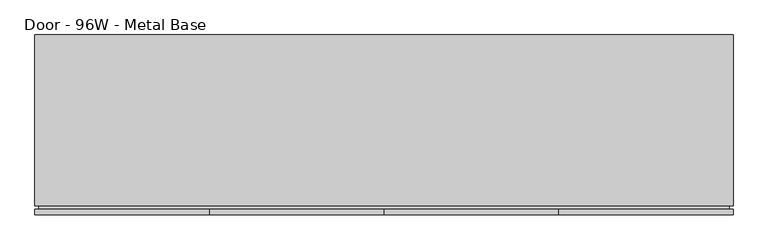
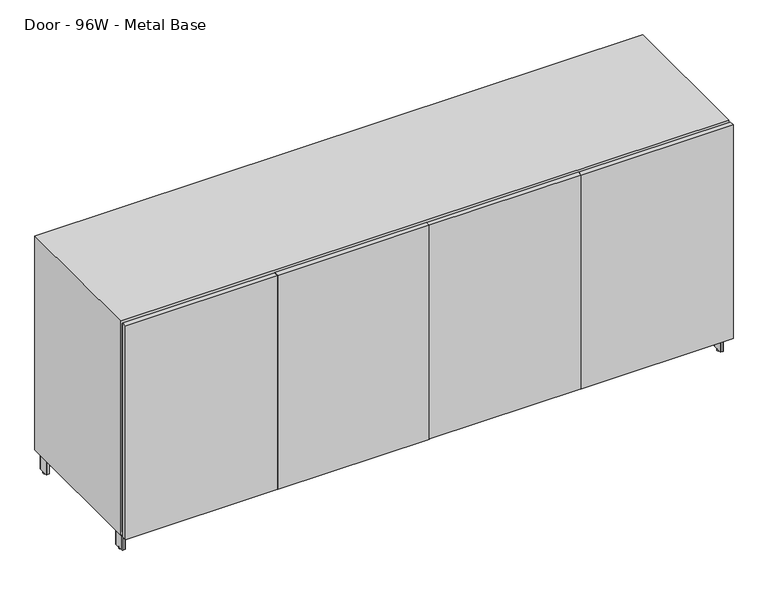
"""IFC4 building model written with IfcOpenShell, lengths in millimetres: furniture geometry, Steelcase Coalesse - Exponents - Storage - Credenza - 39H : Door - 96W - Metal Base."""

import ifcopenshell
import ifcopenshell.guid

model = None  # the IFC model being written
_history = None  # IfcOwnerHistory: only IFC2X3 demands one
_inside = {}  # id of a spatial element -> (the spatial element, [elements in it])
_under = {}  # id of a project, library or spatial element -> (it, [spatial elements below it])
_declared = {}  # id of a project -> (the project, [libraries it declares])
_typed = {}  # id of a type object -> (the type object, [elements of that type])
_made_of = {}  # id of a material, layer set ... -> (it, [elements and type objects made of it])


def new_model(schema):
    """Start an empty IFC model of exactly this schema.

    Asked for "IFC4X3", IfcOpenShell would pick the latest addendum, in which some entities
    have other attributes; the version numbers below select the first issue.
    IFC2X3 requires an IfcOwnerHistory on every rooted entity: one is made here for all.
    """
    global model, _history
    if schema == "IFC4X3":
        model = ifcopenshell.file(schema_version=(4, 3, 0, 0))
    else:
        model = ifcopenshell.file(schema=schema)
    _inside.clear()
    _under.clear()
    _declared.clear()
    _typed.clear()
    _made_of.clear()
    _history = None
    if model.schema == "IFC2X3":
        org = make("IfcOrganization", Name="unknown")
        user = make(
            "IfcPersonAndOrganization",
            ThePerson=make("IfcPerson", FamilyName="unknown"),
            TheOrganization=org,
        )
        app = make(
            "IfcApplication",
            ApplicationDeveloper=org,
            Version="unknown",
            ApplicationFullName="unknown",
            ApplicationIdentifier="unknown",
        )
        _history = make(
            "IfcOwnerHistory",
            OwningUser=user,
            OwningApplication=app,
            ChangeAction="ADDED",
            CreationDate=0,
        )
    return model


def make(cls, **values):
    """One entity of the class cls with the attributes given. An attribute that is None is left unset."""
    return model.create_entity(
        cls, **{name: value for name, value in values.items() if value is not None}
    )


def rooted(cls, **values):
    """An entity with a GlobalId (a new one), such as an element, a storey or a relation."""
    return make(cls, GlobalId=ifcopenshell.guid.new(), OwnerHistory=_history, **values)


def si_unit(unit_type, name, prefix=None):
    """IfcSIUnit, for example si_unit("LENGTHUNIT", "METRE", prefix="MILLI")."""
    return make("IfcSIUnit", UnitType=unit_type, Prefix=prefix, Name=name)


def assignment(units):
    """IfcUnitAssignment: the units of a project."""
    return None if units is None else make("IfcUnitAssignment", Units=units)


def point(xyz):
    """IfcCartesianPoint."""
    return None if xyz is None else make("IfcCartesianPoint", Coordinates=xyz)


def direction(xyz):
    """IfcDirection."""
    return None if xyz is None else make("IfcDirection", DirectionRatios=xyz)


def frame(location, z_axis=None, x_axis=None):
    """IfcAxis2Placement3D, a coordinate frame: its origin and axes. An axis left out is left unset."""
    return make(
        "IfcAxis2Placement3D",
        Location=point(location),
        Axis=direction(z_axis),
        RefDirection=direction(x_axis),
    )


def frame_2d(location, x_axis=None):
    """IfcAxis2Placement2D, a coordinate frame in the plane: its origin and x axis."""
    return make(
        "IfcAxis2Placement2D", Location=point(location), RefDirection=direction(x_axis)
    )


def origin():
    """The frame at (0, 0, 0) with its axes left unset."""
    return frame((0.0, 0.0, 0.0))


def origin_with_axes():
    """The frame at (0, 0, 0) with the z axis (0, 0, 1) and the x axis (1, 0, 0) written out."""
    return frame((0.0, 0.0, 0.0), z_axis=(0.0, 0.0, 1.0), x_axis=(1.0, 0.0, 0.0))


def place(relative_to, where):
    """IfcLocalPlacement: puts the frame where relative to a parent placement (None: the world)."""
    return make(
        "IfcLocalPlacement", PlacementRelTo=relative_to, RelativePlacement=where
    )


def context(
    kind, dimensions, precision=None, world=None, true_north=None, identifier=None
):
    """IfcGeometricRepresentationContext, for example the 3D "Model" context."""
    return make(
        "IfcGeometricRepresentationContext",
        ContextIdentifier=identifier,
        ContextType=kind,
        CoordinateSpaceDimension=dimensions,
        Precision=precision,
        WorldCoordinateSystem=world,
        TrueNorth=true_north,
    )


def project(units=None, contexts=None):
    """IfcProject with its units and contexts."""
    return rooted(
        "IfcProject",
        Name="project",
        RepresentationContexts=contexts,
        UnitsInContext=assignment(units),
    )


def spatial(cls, under=None, at=None, **own):
    """A site, building, storey or space (cls), placed at a placement, below another one or the project."""
    s = rooted(cls, ObjectPlacement=at, **own)
    if under is not None:
        _under.setdefault(under.id(), (under, []))[1].append(s)
    return s


def polyline(points):
    """IfcPolyline through the points."""
    return make("IfcPolyline", Points=[point(p) for p in points])


def circle_curve(where, radius):
    """IfcCircle in the frame where."""
    return make("IfcCircle", Position=where, Radius=radius)


def trimmed(basis, trim1, trim2, sense, master):
    """IfcTrimmedCurve: the piece of a basis curve between two trims."""
    return make(
        "IfcTrimmedCurve",
        BasisCurve=basis,
        Trim1=trim1,
        Trim2=trim2,
        SenseAgreement=sense,
        MasterRepresentation=master,
    )


def segment(curve, same_sense, transition):
    """IfcCompositeCurveSegment."""
    return make(
        "IfcCompositeCurveSegment",
        Transition=transition,
        SameSense=same_sense,
        ParentCurve=curve,
    )


def composite_curve(segments, self_intersect=None):
    """IfcCompositeCurve: segments joined end to end."""
    return make("IfcCompositeCurve", Segments=segments, SelfIntersect=self_intersect)


def outline(outer, holes=None, kind="AREA"):
    """IfcArbitraryClosedProfileDef: a profile drawn as a closed curve; with holes, ...WithVoids."""
    if holes is None:
        return make("IfcArbitraryClosedProfileDef", ProfileType=kind, OuterCurve=outer)
    return make(
        "IfcArbitraryProfileDefWithVoids",
        ProfileType=kind,
        OuterCurve=outer,
        InnerCurves=holes,
    )


def extrude(swept, where, along, depth):
    """IfcExtrudedAreaSolid: the profile swept, set in the frame where, extruded along a direction by depth."""
    return make(
        "IfcExtrudedAreaSolid",
        SweptArea=swept,
        Position=where,
        ExtrudedDirection=direction(along),
        Depth=depth,
    )


def faces_of(points, faces, orient=None, outer=None):
    """IfcFace entities. A face is a list of loops; a loop is a list of indices into points, from 0.

    orient and outer hold one flag for each loop. By default every Orientation is true, the
    first loop of a face is its IfcFaceOuterBound and the others are IfcFaceBound.
    """
    made = []
    for i, loops in enumerate(faces):
        bounds = []
        for j, loop in enumerate(loops):
            is_outer = j == 0 if outer is None else outer[i][j]
            bounds.append(
                make(
                    "IfcFaceOuterBound" if is_outer else "IfcFaceBound",
                    Bound=make("IfcPolyLoop", Polygon=[points[k] for k in loop]),
                    Orientation=True if orient is None else orient[i][j],
                )
            )
        made.append(make("IfcFace", Bounds=bounds))
    return made


def faceted_brep(points, faces, orient=None, outer=None, voids=None):
    """IfcFacetedBrep: a solid bounded by flat faces; with voids (closed shells), ...WithVoids."""
    shared = [point(p) for p in points]
    hull = make("IfcClosedShell", CfsFaces=faces_of(shared, faces, orient, outer))
    if voids is None:
        return make("IfcFacetedBrep", Outer=hull)
    return make(
        "IfcFacetedBrepWithVoids",
        Outer=hull,
        Voids=[
            make(cls, CfsFaces=faces_of(shared, fs, o, b)) for cls, fs, o, b in voids
        ],
    )


def shape(context_of_items, identifier, shape_type, items):
    """IfcShapeRepresentation: the items that make up one representation, for example the "Body"."""
    return make(
        "IfcShapeRepresentation",
        ContextOfItems=context_of_items,
        RepresentationIdentifier=identifier,
        RepresentationType=shape_type,
        Items=items,
    )


def source(mapping_origin, context_of_items, identifier, shape_type, items):
    """IfcRepresentationMap: a shape defined once, which mapped items show again and again."""
    return make(
        "IfcRepresentationMap",
        MappingOrigin=mapping_origin,
        MappedRepresentation=shape(context_of_items, identifier, shape_type, items),
    )


def transform(
    local_origin,
    x_axis=None,
    y_axis=None,
    z_axis=None,
    scale=None,
    scale2=None,
    scale3=None,
    uniform=True,
):
    """IfcCartesianTransformationOperator3D, or its non-uniform kind. x_axis, y_axis, z_axis: its Axis1, 2, 3."""
    if uniform:
        return make(
            "IfcCartesianTransformationOperator3D",
            Axis1=direction(x_axis),
            Axis2=direction(y_axis),
            LocalOrigin=point(local_origin),
            Scale=scale,
            Axis3=direction(z_axis),
        )
    return make(
        "IfcCartesianTransformationOperator3DnonUniform",
        Axis1=direction(x_axis),
        Axis2=direction(y_axis),
        LocalOrigin=point(local_origin),
        Scale=scale,
        Axis3=direction(z_axis),
        Scale2=scale2,
        Scale3=scale3,
    )


def mapped(mapping_source, mapping_target):
    """IfcMappedItem: shows the shape of a source again, moved by a transform."""
    return make(
        "IfcMappedItem", MappingSource=mapping_source, MappingTarget=mapping_target
    )


def made_of(thing, what):
    """Note that an element or type object is made of a material, layer set ...; save() writes the relation."""
    if what is not None:
        _made_of.setdefault(what.id(), (what, []))[1].append(thing)
    return thing


def element(
    cls,
    number,
    at=None,
    inside=None,
    cuts=None,
    type_object=None,
    material=None,
    context=None,
    identifier="Body",
    shape_type=None,
    held_by="IfcProductDefinitionShape",
    body=None,
    shapes=None,
    **own,
):
    """One element of the class cls, such as IfcWall. Its Tag is "e" and its number.

    at: its placement. inside: the storey or other place that contains it. cuts: it is an
    opening in that element (IfcRelVoidsElement). A single representation is given by context,
    identifier, shape_type and body (its items); several are given by shapes. held_by: the class
    of the entity that holds the representations. save() writes the other relations.
    """
    e = rooted(cls, Tag="e%d" % number, ObjectPlacement=at, **own)
    if body is not None:
        shapes = [shape(context, identifier, shape_type, body)]
    if shapes is not None:
        e.Representation = make(held_by, Representations=shapes)
    if inside is not None:
        _inside.setdefault(inside.id(), (inside, []))[1].append(e)
    if cuts is not None:
        rooted(
            "IfcRelVoidsElement", RelatingBuildingElement=cuts, RelatedOpeningElement=e
        )
    if type_object is not None:
        _typed.setdefault(type_object.id(), (type_object, []))[1].append(e)
    return made_of(e, material)


def aggregate(whole, parts):
    """IfcRelAggregates: a whole, such as a stair, and the parts it consists of."""
    return rooted("IfcRelAggregates", RelatingObject=whole, RelatedObjects=parts)


def save(model, path):
    """Write the relations noted so far, then the file.

    IfcRelAggregates (storeys below a building ...), IfcRelContainedInSpatialStructure (elements
    in a storey), IfcRelDefinesByType, IfcRelAssociatesMaterial and IfcRelDeclares: one each for
    every whole, place, type object, material and project.
    """
    for whole, parts in _under.values():
        aggregate(whole, parts)
    for where, things in _inside.values():
        rooted(
            "IfcRelContainedInSpatialStructure",
            RelatedElements=things,
            RelatingStructure=where,
        )
    for kind, things in _typed.values():
        rooted("IfcRelDefinesByType", RelatedObjects=things, RelatingType=kind)
    for what, things in _made_of.values():
        rooted("IfcRelAssociatesMaterial", RelatedObjects=things, RelatingMaterial=what)
    for by, libraries in _declared.values():
        rooted("IfcRelDeclares", RelatingContext=by, RelatedDefinitions=libraries)
    model.write(path)


def door_96w_metal_base_465cc0f3(model_context):
    return source(origin(), model_context, "Body", "SolidModel", [
        faceted_brep([(6.35, 31.75, 977.9), (6.35, 31.75, 95.25), (6.35, 622.3, 95.25), (6.35, 622.3, 977.9), (2432.05, 622.3, 95.25), (2432.05, 622.3, 977.9), (2432.05, 31.75, 95.25), (2432.05, 31.75, 977.9), (0.0, 31.75, 82.55), (2438.4, 31.75, 82.55), (2438.4, 31.75, 990.6), (0.0, 31.75, 990.6), (2438.4, 628.65, 82.55), (2438.4, 628.65, 990.6), (0.0, 628.65, 82.55), (0.0, 628.65, 990.6)], [[[0, 1, 2, 3]], [[3, 2, 4, 5]], [[5, 4, 6, 7]], [[8, 9, 10, 11], [7, 6, 1, 0]], [[10, 9, 12, 13]], [[13, 12, 14, 15]], [[15, 14, 8, 11]], [[7, 0, 3, 5]], [[10, 13, 15, 11]], [[1, 6, 4, 2]], [[12, 9, 8, 14]]]),
        extrude(outline(composite_curve([segment(polyline([(2414.7506426, 615.95), (2423.922, 615.95)]), True, "CONTINUOUS"), segment(trimmed(circle_curve(frame_2d((2423.922, 614.172)), 1.778), [point((2423.922, 615.95))], [point((2425.7, 614.172))], False, "CARTESIAN"), True, "CONTINUOUS"), segment(polyline([(2425.7, 614.172), (2425.7, 572.9986)]), True, "CONTINUOUS"), segment(trimmed(circle_curve(frame_2d((2423.922, 572.9986)), 1.778), [point((2425.7, 572.9986))], [point((2423.922, 571.2206))], False, "CARTESIAN"), True, "CONTINUOUS"), segment(polyline([(2423.922, 571.2206), (2414.7948916, 571.2206)]), True, "CONTINUOUS"), segment(trimmed(circle_curve(frame_2d((2414.7948916, 573.0154916)), 1.7948916), [point((2414.7948916, 571.2206))], [point((2413.0, 573.0154916))], False, "CARTESIAN"), True, "CONTINUOUS"), segment(polyline([(2413.0, 573.0154916), (2413.0, 614.1993574)]), True, "CONTINUOUS"), segment(trimmed(circle_curve(frame_2d((2414.7506426, 614.1993574)), 1.7506426), [point((2413.0, 614.1993574))], [point((2414.7506426, 615.95))], False, "CARTESIAN"), True, "CONTINUOUS")], self_intersect=False)), frame((0.0, 0.0, 6.35), z_axis=(0.0, 0.0, 1.0), x_axis=(1.0, 0.0, 0.0)), (0.0, 0.0, 1.0), 73.4568),
        extrude(outline(composite_curve([segment(polyline([(2414.7506426, 88.9), (2423.922, 88.9)]), True, "CONTINUOUS"), segment(trimmed(circle_curve(frame_2d((2423.922, 87.122)), 1.778), [point((2423.922, 88.9))], [point((2425.7, 87.122))], False, "CARTESIAN"), True, "CONTINUOUS"), segment(polyline([(2425.7, 87.122), (2425.7, 45.9486)]), True, "CONTINUOUS"), segment(trimmed(circle_curve(frame_2d((2423.922, 45.9486)), 1.778), [point((2425.7, 45.9486))], [point((2423.922, 44.1706))], False, "CARTESIAN"), True, "CONTINUOUS"), segment(polyline([(2423.922, 44.1706), (2414.7948916, 44.1706)]), True, "CONTINUOUS"), segment(trimmed(circle_curve(frame_2d((2414.7948916, 45.9654916)), 1.7948916), [point((2414.7948916, 44.1706))], [point((2413.0, 45.9654916))], False, "CARTESIAN"), True, "CONTINUOUS"), segment(polyline([(2413.0, 45.9654916), (2413.0, 87.1493574)]), True, "CONTINUOUS"), segment(trimmed(circle_curve(frame_2d((2414.7506426, 87.1493574)), 1.7506426), [point((2413.0, 87.1493574))], [point((2414.7506426, 88.9))], False, "CARTESIAN"), True, "CONTINUOUS")], self_intersect=False)), frame((0.0, 0.0, 6.35), z_axis=(0.0, 0.0, 1.0), x_axis=(1.0, 0.0, 0.0)), (0.0, 0.0, 1.0), 73.4568),
        extrude(outline(composite_curve([segment(trimmed(circle_curve(frame_2d((2419.35, 593.5667033)), 6.35), [point((2419.35, 599.9167033))], [point((2419.35, 587.2167033))], False, "CARTESIAN"), True, "CONTINUOUS"), segment(trimmed(circle_curve(frame_2d((2419.35, 593.5667033)), 6.35), [point((2419.35, 587.2167033))], [point((2419.35, 599.9167033))], False, "CARTESIAN"), True, "CONTINUOUS")], self_intersect=False)), origin_with_axes(), (0.0, 0.0, 1.0), 6.35),
        extrude(outline(composite_curve([segment(trimmed(circle_curve(frame_2d((2419.35, 66.7867854)), 6.35), [point((2419.35, 73.1367854))], [point((2419.35, 60.4367854))], False, "CARTESIAN"), True, "CONTINUOUS"), segment(trimmed(circle_curve(frame_2d((2419.35, 66.7867854)), 6.35), [point((2419.35, 60.4367854))], [point((2419.35, 73.1367854))], False, "CARTESIAN"), True, "CONTINUOUS")], self_intersect=False)), origin_with_axes(), (0.0, 0.0, 1.0), 6.35),
        extrude(outline(polyline([(1879.6, 379.0696809), (1879.6, 277.4696809), (1778.0, 277.4696809), (1778.0, 379.0696809), (1879.6, 379.0696809)])), frame((0.0, 0.0, 79.8068), z_axis=(0.0, 0.0, 1.0), x_axis=(1.0, 0.0, 0.0)), (0.0, 0.0, 1.0), 2.7432),
        extrude(outline(polyline([(977.9, 2425.7), (977.9, 12.7), (95.25, 12.7), (95.25, 2425.7), (977.9, 2425.7)]), holes=[polyline([(971.55, 2419.35), (101.6, 2419.35), (101.6, 19.05), (971.55, 19.05), (971.55, 2419.35)])]), frame((0.0, 19.05, 0.0), z_axis=(0.0, 1.0, 0.0), x_axis=(0.0, 0.0, 1.0)), (0.0, 0.0, 1.0), 31.75),
        extrude(outline(composite_curve([segment(polyline([(1821.0256426, 349.25), (1836.547, 349.25)]), True, "CONTINUOUS"), segment(trimmed(circle_curve(frame_2d((1836.547, 347.472)), 1.778), [point((1836.547, 349.25))], [point((1838.325, 347.472))], False, "CARTESIAN"), True, "CONTINUOUS"), segment(polyline([(1838.325, 347.472), (1838.325, 312.928)]), True, "CONTINUOUS"), segment(trimmed(circle_curve(frame_2d((1836.547, 312.928)), 1.778), [point((1838.325, 312.928))], [point((1836.547, 311.15))], False, "CARTESIAN"), True, "CONTINUOUS"), segment(polyline([(1836.547, 311.15), (1821.0698916, 311.15)]), True, "CONTINUOUS"), segment(trimmed(circle_curve(frame_2d((1821.0698916, 312.9448916)), 1.7948916), [point((1821.0698916, 311.15))], [point((1819.275, 312.9448916))], False, "CARTESIAN"), True, "CONTINUOUS"), segment(polyline([(1819.275, 312.9448916), (1819.275, 347.4993574)]), True, "CONTINUOUS"), segment(trimmed(circle_curve(frame_2d((1821.0256426, 347.4993574)), 1.7506426), [point((1819.275, 347.4993574))], [point((1821.0256426, 349.25))], False, "CARTESIAN"), True, "CONTINUOUS")], self_intersect=False)), frame((0.0, 0.0, 6.35), z_axis=(0.0, 0.0, 1.0), x_axis=(1.0, 0.0, 0.0)), (0.0, 0.0, 1.0), 73.4568),
        extrude(outline(polyline([(1830.0800308, 345.280854), (2413.0, 598.591626), (2413.0, 577.8206777), (1843.1741031, 330.2), (2413.0, 82.5793223), (2413.0, 61.808374), (1830.377267, 314.9899805), (1836.8101738, 329.7934165), (1830.0800308, 345.280854)])), frame((0.0, 0.0, 34.925), z_axis=(0.0, 0.0, 1.0), x_axis=(1.0, 0.0, 0.0)), (0.0, 0.0, 1.0), 44.8818),
        extrude(outline(polyline([(2432.05, 520.7), (2330.45, 520.7), (2330.45, 622.3), (2432.05, 622.3), (2432.05, 520.7)])), frame((0.0, 0.0, 79.8068), z_axis=(0.0, 0.0, 1.0), x_axis=(1.0, 0.0, 0.0)), (0.0, 0.0, 1.0), 2.7432),
        extrude(outline(polyline([(2432.05, 139.7), (2432.05, 38.1), (2330.45, 38.1), (2330.45, 139.7), (2432.05, 139.7)])), frame((0.0, 0.0, 79.8068), z_axis=(0.0, 0.0, 1.0), x_axis=(1.0, 0.0, 0.0)), (0.0, 0.0, 1.0), 2.7432),
        extrude(outline(composite_curve([segment(trimmed(circle_curve(frame_2d((1828.6250692, 330.5590189)), 6.35), [point((1828.6250692, 336.9090189))], [point((1828.6250692, 324.2090189))], False, "CARTESIAN"), True, "CONTINUOUS"), segment(trimmed(circle_curve(frame_2d((1828.6250692, 330.5590189)), 6.35), [point((1828.6250692, 324.2090189))], [point((1828.6250692, 336.9090189))], False, "CARTESIAN"), True, "CONTINUOUS")], self_intersect=False)), origin_with_axes(), (0.0, 0.0, 1.0), 6.35),
        extrude(outline(composite_curve([segment(trimmed(circle_curve(frame_2d((1219.2, 330.5590189)), 6.35), [point((1219.2, 324.2090189))], [point((1219.2, 336.9090189))], False, "CARTESIAN"), True, "CONTINUOUS"), segment(trimmed(circle_curve(frame_2d((1219.2, 330.5590189)), 6.35), [point((1219.2, 336.9090189))], [point((1219.2, 324.2090189))], False, "CARTESIAN"), True, "CONTINUOUS")], self_intersect=False)), origin_with_axes(), (0.0, 0.0, 1.0), 6.35),
        extrude(outline(polyline([(1168.4, 379.0696809), (1270.0, 379.0696809), (1270.0, 277.4696809), (1168.4, 277.4696809), (1168.4, 379.0696809)])), frame((0.0, 0.0, 79.8068), z_axis=(0.0, 0.0, 1.0), x_axis=(1.0, 0.0, 0.0)), (0.0, 0.0, 1.0), 2.7432),
        extrude(outline(composite_curve([segment(trimmed(circle_curve(frame_2d((1226.9743574, 347.4993574)), 1.7506426), [point((1226.9743574, 349.25))], [point((1228.725, 347.4993574))], False, "CARTESIAN"), True, "CONTINUOUS"), segment(polyline([(1228.725, 347.4993574), (1228.725, 312.9448916)]), True, "CONTINUOUS"), segment(trimmed(circle_curve(frame_2d((1226.9301084, 312.9448916)), 1.7948916), [point((1228.725, 312.9448916))], [point((1226.9301084, 311.15))], False, "CARTESIAN"), True, "CONTINUOUS"), segment(polyline([(1226.9301084, 311.15), (1211.453, 311.15)]), True, "CONTINUOUS"), segment(trimmed(circle_curve(frame_2d((1211.453, 312.928)), 1.778), [point((1211.453, 311.15))], [point((1209.675, 312.928))], False, "CARTESIAN"), True, "CONTINUOUS"), segment(polyline([(1209.675, 312.928), (1209.675, 347.472)]), True, "CONTINUOUS"), segment(trimmed(circle_curve(frame_2d((1211.453, 347.472)), 1.778), [point((1209.675, 347.472))], [point((1211.453, 349.25))], False, "CARTESIAN"), True, "CONTINUOUS"), segment(polyline([(1211.453, 349.25), (1226.9743574, 349.25)]), True, "CONTINUOUS")], self_intersect=False)), frame((0.0, 0.0, 6.35), z_axis=(0.0, 0.0, 1.0), x_axis=(1.0, 0.0, 0.0)), (0.0, 0.0, 1.0), 73.4568),
        extrude(outline(polyline([(2438.4, 19.05), (2438.4, 0.0), (1829.435, 0.0), (1829.435, 19.05), (2438.4, 19.05)])), frame((0.0, 0.0, 82.55), z_axis=(0.0, 0.0, 1.0), x_axis=(1.0, 0.0, 0.0)), (0.0, 0.0, 1.0), 908.05),
        extrude(outline(polyline([(1827.8348, 19.05), (1827.8348, 0.0), (1220.0128, 0.0), (1220.0128, 19.05), (1827.8348, 19.05)])), frame((0.0, 0.0, 82.55), z_axis=(0.0, 0.0, 1.0), x_axis=(1.0, 0.0, 0.0)), (0.0, 0.0, 1.0), 908.05),
        extrude(outline(composite_curve([segment(trimmed(circle_curve(frame_2d((23.6493574, 614.1993574)), 1.7506426), [point((23.6493574, 615.95))], [point((25.4, 614.1993574))], False, "CARTESIAN"), True, "CONTINUOUS"), segment(polyline([(25.4, 614.1993574), (25.4, 573.0154916)]), True, "CONTINUOUS"), segment(trimmed(circle_curve(frame_2d((23.6051084, 573.0154916)), 1.7948916), [point((25.4, 573.0154916))], [point((23.6051084, 571.2206))], False, "CARTESIAN"), True, "CONTINUOUS"), segment(polyline([(23.6051084, 571.2206), (14.478, 571.2206)]), True, "CONTINUOUS"), segment(trimmed(circle_curve(frame_2d((14.478, 572.9986)), 1.778), [point((14.478, 571.2206))], [point((12.7, 572.9986))], False, "CARTESIAN"), True, "CONTINUOUS"), segment(polyline([(12.7, 572.9986), (12.7, 614.172)]), True, "CONTINUOUS"), segment(trimmed(circle_curve(frame_2d((14.478, 614.172)), 1.778), [point((12.7, 614.172))], [point((14.478, 615.95))], False, "CARTESIAN"), True, "CONTINUOUS"), segment(polyline([(14.478, 615.95), (23.6493574, 615.95)]), True, "CONTINUOUS")], self_intersect=False)), frame((0.0, 0.0, 6.35), z_axis=(0.0, 0.0, 1.0), x_axis=(1.0, 0.0, 0.0)), (0.0, 0.0, 1.0), 73.4568),
        extrude(outline(composite_curve([segment(trimmed(circle_curve(frame_2d((23.6493574, 87.1493574)), 1.7506426), [point((23.6493574, 88.9))], [point((25.4, 87.1493574))], False, "CARTESIAN"), True, "CONTINUOUS"), segment(polyline([(25.4, 87.1493574), (25.4, 45.9654916)]), True, "CONTINUOUS"), segment(trimmed(circle_curve(frame_2d((23.6051084, 45.9654916)), 1.7948916), [point((25.4, 45.9654916))], [point((23.6051084, 44.1706))], False, "CARTESIAN"), True, "CONTINUOUS"), segment(polyline([(23.6051084, 44.1706), (14.478, 44.1706)]), True, "CONTINUOUS"), segment(trimmed(circle_curve(frame_2d((14.478, 45.9486)), 1.778), [point((14.478, 44.1706))], [point((12.7, 45.9486))], False, "CARTESIAN"), True, "CONTINUOUS"), segment(polyline([(12.7, 45.9486), (12.7, 87.122)]), True, "CONTINUOUS"), segment(trimmed(circle_curve(frame_2d((14.478, 87.122)), 1.778), [point((12.7, 87.122))], [point((14.478, 88.9))], False, "CARTESIAN"), True, "CONTINUOUS"), segment(polyline([(14.478, 88.9), (23.6493574, 88.9)]), True, "CONTINUOUS")], self_intersect=False)), frame((0.0, 0.0, 6.35), z_axis=(0.0, 0.0, 1.0), x_axis=(1.0, 0.0, 0.0)), (0.0, 0.0, 1.0), 73.4568),
        extrude(outline(composite_curve([segment(trimmed(circle_curve(frame_2d((617.3743574, 347.4993574)), 1.7506426), [point((617.3743574, 349.25))], [point((619.125, 347.4993574))], False, "CARTESIAN"), True, "CONTINUOUS"), segment(polyline([(619.125, 347.4993574), (619.125, 312.9448916)]), True, "CONTINUOUS"), segment(trimmed(circle_curve(frame_2d((617.3301084, 312.9448916)), 1.7948916), [point((619.125, 312.9448916))], [point((617.3301084, 311.15))], False, "CARTESIAN"), True, "CONTINUOUS"), segment(polyline([(617.3301084, 311.15), (601.853, 311.15)]), True, "CONTINUOUS"), segment(trimmed(circle_curve(frame_2d((601.853, 312.928)), 1.778), [point((601.853, 311.15))], [point((600.075, 312.928))], False, "CARTESIAN"), True, "CONTINUOUS"), segment(polyline([(600.075, 312.928), (600.075, 347.472)]), True, "CONTINUOUS"), segment(trimmed(circle_curve(frame_2d((601.853, 347.472)), 1.778), [point((600.075, 347.472))], [point((601.853, 349.25))], False, "CARTESIAN"), True, "CONTINUOUS"), segment(polyline([(601.853, 349.25), (617.3743574, 349.25)]), True, "CONTINUOUS")], self_intersect=False)), frame((0.0, 0.0, 6.35), z_axis=(0.0, 0.0, 1.0), x_axis=(1.0, 0.0, 0.0)), (0.0, 0.0, 1.0), 73.4568),
        extrude(outline(polyline([(608.3199692, 345.280854), (601.5898262, 329.7934165), (608.022733, 314.9899805), (25.4, 61.808374), (25.4, 82.5793223), (595.2258969, 330.2), (25.4, 577.8206777), (25.4, 598.591626), (608.3199692, 345.280854)])), frame((0.0, 0.0, 34.925), z_axis=(0.0, 0.0, 1.0), x_axis=(1.0, 0.0, 0.0)), (0.0, 0.0, 1.0), 44.8818),
        extrude(outline(polyline([(1218.4126, 19.05), (1218.4126, 0.0), (610.5652, 0.0), (610.5652, 19.05), (1218.4126, 19.05)])), frame((0.0, 0.0, 82.55), z_axis=(0.0, 0.0, 1.0), x_axis=(1.0, 0.0, 0.0)), (0.0, 0.0, 1.0), 908.05),
        extrude(outline(polyline([(6.35, 520.7), (6.35, 622.3), (107.95, 622.3), (107.95, 520.7), (6.35, 520.7)])), frame((0.0, 0.0, 79.8068), z_axis=(0.0, 0.0, 1.0), x_axis=(1.0, 0.0, 0.0)), (0.0, 0.0, 1.0), 2.7432),
        extrude(outline(polyline([(6.35, 139.7), (107.95, 139.7), (107.95, 38.1), (6.35, 38.1), (6.35, 139.7)])), frame((0.0, 0.0, 79.8068), z_axis=(0.0, 0.0, 1.0), x_axis=(1.0, 0.0, 0.0)), (0.0, 0.0, 1.0), 2.7432),
        extrude(outline(polyline([(558.8, 379.0696809), (660.4, 379.0696809), (660.4, 277.4696809), (558.8, 277.4696809), (558.8, 379.0696809)])), frame((0.0, 0.0, 79.8068), z_axis=(0.0, 0.0, 1.0), x_axis=(1.0, 0.0, 0.0)), (0.0, 0.0, 1.0), 2.7432),
        extrude(outline(polyline([(608.965, 19.05), (608.965, 0.0), (0.0, 0.0), (0.0, 19.05), (608.965, 19.05)])), frame((0.0, 0.0, 82.55), z_axis=(0.0, 0.0, 1.0), x_axis=(1.0, 0.0, 0.0)), (0.0, 0.0, 1.0), 908.05),
        extrude(outline(composite_curve([segment(trimmed(circle_curve(frame_2d((19.05, 593.5667033)), 6.35), [point((12.7, 593.5667033))], [point((25.4, 593.5667033))], False, "CARTESIAN"), True, "CONTINUOUS"), segment(trimmed(circle_curve(frame_2d((19.05, 593.5667033)), 6.35), [point((25.4, 593.5667033))], [point((12.7, 593.5667033))], False, "CARTESIAN"), True, "CONTINUOUS")], self_intersect=False)), origin_with_axes(), (0.0, 0.0, 1.0), 6.35),
        extrude(outline(composite_curve([segment(trimmed(circle_curve(frame_2d((19.05, 66.7867854)), 6.35), [point((12.7, 66.7867854))], [point((25.4, 66.7867854))], False, "CARTESIAN"), True, "CONTINUOUS"), segment(trimmed(circle_curve(frame_2d((19.05, 66.7867854)), 6.35), [point((25.4, 66.7867854))], [point((12.7, 66.7867854))], False, "CARTESIAN"), True, "CONTINUOUS")], self_intersect=False)), origin_with_axes(), (0.0, 0.0, 1.0), 6.35),
        extrude(outline(composite_curve([segment(trimmed(circle_curve(frame_2d((609.7749308, 330.5590189)), 6.35), [point((603.4249308, 330.5590189))], [point((616.1249308, 330.5590189))], False, "CARTESIAN"), True, "CONTINUOUS"), segment(trimmed(circle_curve(frame_2d((609.7749308, 330.5590189)), 6.35), [point((616.1249308, 330.5590189))], [point((603.4249308, 330.5590189))], False, "CARTESIAN"), True, "CONTINUOUS")], self_intersect=False)), origin_with_axes(), (0.0, 0.0, 1.0), 6.35),
        extrude(outline(polyline([(0.0, -19.05), (0.0, 0.0), (31.75, 0.0), (31.75, -19.05), (0.0, -19.05)])), frame((1828.8, 19.05, 101.6), z_axis=(2.938094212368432e-12, 0.0, 1.0), x_axis=(0.0, 1.0, 0.0)), (0.0, 0.0, 1.0), 869.95),
        extrude(outline(polyline([(0.0, -19.05), (0.0, 0.0), (31.75, 0.0), (31.75, -19.05), (0.0, -19.05)])), frame((1209.675, 19.05, 101.6), z_axis=(3.14415160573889e-12, 0.0, 1.0), x_axis=(0.0, 1.0, 0.0)), (0.0, 0.0, 1.0), 869.95),
        extrude(outline(polyline([(0.0, -19.05), (0.0, 0.0), (31.75, 0.0), (31.75, -19.05), (0.0, -19.05)])), frame((590.55, 19.05, 101.6), z_axis=(3.3644198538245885e-12, 0.0, 1.0), x_axis=(0.0, 1.0, 0.0)), (0.0, 0.0, 1.0), 869.95),
        extrude(outline(polyline([(1209.675, 609.6), (1228.725, 609.6), (1228.725, 50.8), (1209.675, 50.8), (1209.675, 609.6)])), frame((0.0, 0.0, 95.25), z_axis=(0.0, 0.0, 1.0), x_axis=(1.0, 0.0, 0.0)), (0.0, 0.0, 1.0), 882.65),
        extrude(outline(polyline([(1828.8, 609.6), (1847.85, 609.6), (1847.85, 50.8), (1828.8, 50.8), (1828.8, 609.6)])), frame((0.0, 0.0, 95.25), z_axis=(0.0, 0.0, 1.0), x_axis=(1.0, 0.0, 0.0)), (0.0, 0.0, 1.0), 882.65),
        extrude(outline(polyline([(1828.8, 50.8), (1228.725, 50.8), (1228.725, 609.6), (1828.8, 609.6), (1828.8, 50.8)])), frame((0.0, 0.0, 523.875), z_axis=(0.0, 0.0, 1.0), x_axis=(1.0, 0.0, 0.0)), (0.0, 0.0, 1.0), 19.05),
        extrude(outline(polyline([(1209.675, 50.8), (609.6, 50.8), (609.6, 609.6), (1209.675, 609.6), (1209.675, 50.8)])), frame((0.0, 0.0, 523.875), z_axis=(0.0, 0.0, 1.0), x_axis=(1.0, 0.0, 0.0)), (0.0, 0.0, 1.0), 19.05),
        extrude(outline(polyline([(590.55, 609.6), (609.6, 609.6), (609.6, 50.8), (590.55, 50.8), (590.55, 609.6)])), frame((0.0, 0.0, 95.25), z_axis=(0.0, 0.0, 1.0), x_axis=(1.0, 0.0, 0.0)), (0.0, 0.0, 1.0), 882.65),
    ])


if __name__ == "__main__":
    model = new_model("IFC4")
    model_context = context("Model", 3, world=origin())
    ifc_project = project(units=[si_unit("LENGTHUNIT", "METRE", prefix="MILLI")], contexts=[model_context])
    site = spatial("IfcSite", under=ifc_project)
    building = spatial("IfcBuilding", under=site)
    placement = place(None, origin())
    door_96w_metal_base_shape = door_96w_metal_base_465cc0f3(model_context)
    element("IfcFurniture", 1, ObjectType="Steelcase Coalesse - Exponents - Storage - Credenza - 39H : Door - 96W - Metal Base", at=placement, inside=building, context=model_context, shape_type="MappedRepresentation", body=[
        mapped(door_96w_metal_base_shape, transform((0.0, 0.0, 0.0), x_axis=(1.0, 0.0, 0.0), y_axis=(0.0, 1.0, 0.0), z_axis=(0.0, 0.0, 1.0))),
    ])
    save(model, "model.ifc")
